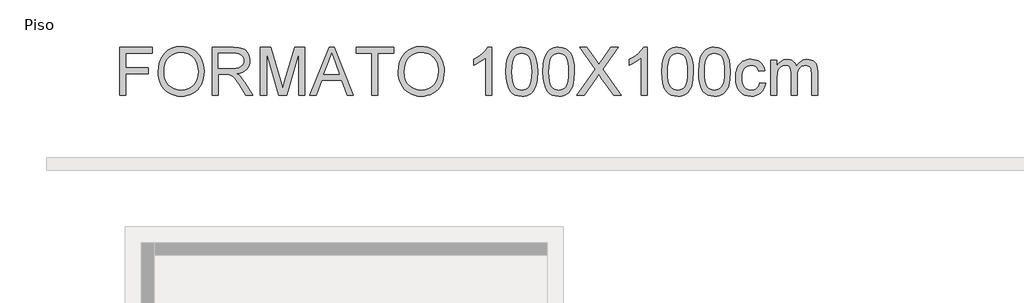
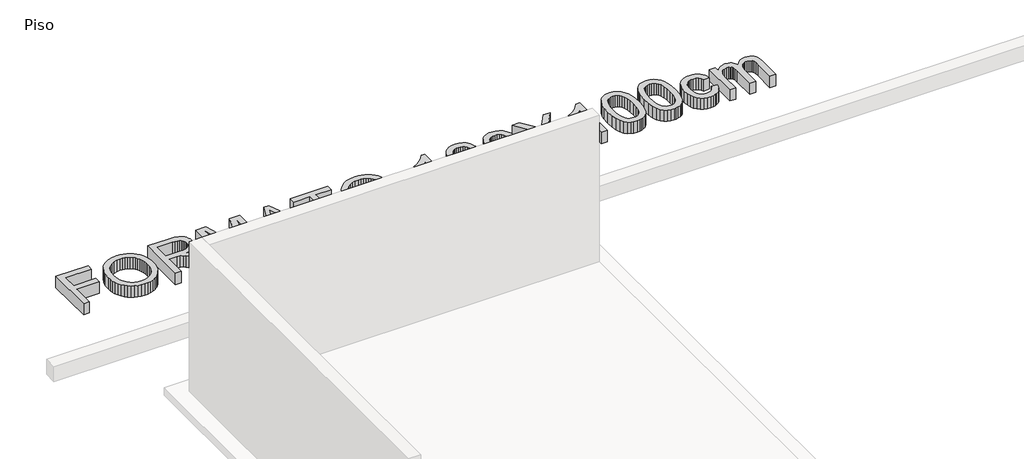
# One storey, part 2 of 2: 1 proxy.
"""IFC4 building model written with IfcOpenShell, lengths in millimetres."""

from ifc_helpers import new_model, si_unit, origin, origin_with_axes, place, context, project, spatial, polyline, outline, extrude, element, save

model = new_model("IFC4")

# Units and contexts
model_context = context("Model", 3, world=origin())
ifc_project = project(units=[si_unit("LENGTHUNIT", "METRE", prefix="MILLI")], contexts=[model_context])

# Site, building, storey
site = spatial("IfcSite", under=ifc_project)
building = spatial("IfcBuilding", under=site)
storey = spatial("IfcBuildingStorey", under=building, Name="Piso", Elevation=0.0)

# Proxy
placement = place(None, origin())
element("IfcBuildingElementProxy", 1, Name="600mm Arial", ObjectType="600mm Arial", at=placement, inside=storey, context=model_context, shape_type="SweptSolid", body=[
    extrude(outline(polyline([(92602.0859381, 2702.6380465), (92602.0859381, 3305.3759074), (93007.0504384, 3305.3759074), (93007.0504384, 3230.0336748), (92677.4281707, 3230.0336748), (92677.4281707, 3051.0958724), (92959.961543, 3051.0958724), (92959.961543, 2975.7536397), (92677.4281707, 2975.7536397), (92677.4281707, 2702.6380465), (92602.0859381, 2702.6380465)])), origin_with_axes(), (0.0, 0.0, 1.0), 150.0),
    extrude(outline(polyline([(93082.392671, 2996.0607259), (93087.4142602, 3066.7584483), (93102.4790279, 3129.3443727), (93127.5869741, 3183.8184992), (93143.9071391, 3208.0136381), (93162.7380987, 3230.1808276), (93205.8262774, 3267.1989534), (93254.7453857, 3293.6404718), (93309.4954237, 3309.5053828), (93370.0763912, 3314.7936865), (93410.6261841, 3312.310483), (93449.134232, 3304.8608726), (93485.6005348, 3292.4448553), (93520.0250925, 3275.062431), (93551.4422148, 3253.2378317), (93578.8862117, 3227.495289), (93602.357083, 3197.8348032), (93621.8548287, 3164.2563741), (93637.1771138, 3127.5233569), (93648.1216032, 3088.3991067), (93654.6882968, 3046.8836235), (93656.8771947, 3002.9769074), (93654.5733337, 2958.4907771), (93647.6617507, 2916.4142739), (93636.1424457, 2876.7473978), (93620.0154187, 2839.4901487), (93599.6623474, 2805.6266111), (93575.4649091, 2776.1408692), (93547.423104, 2751.032923), (93515.5369321, 2730.3027726), (93481.0617906, 2714.0791766), (93445.2530769, 2702.4908937), (93408.110791, 2695.537924), (93369.6349328, 2693.2202674), (93328.3769671, 2695.7816458), (93289.3630815, 2703.465781), (93252.5932761, 2716.272673), (93218.0675508, 2734.2023217), (93186.6872166, 2756.56035), (93159.3535844, 2782.6523805), (93136.0666541, 2812.4784132), (93116.8264257, 2846.0384482), (93101.761658, 2881.9851177), (93091.0011097, 2918.9710538), (93084.5447807, 2956.9962565), (93082.392671, 2996.0607259)]), holes=[polyline([(93157.7349036, 2995.3249619), (93161.5010955, 2945.375784), (93172.7996713, 2901.0368065), (93191.6306309, 2862.3080295), (93217.9939744, 2829.1894529), (93250.0410947, 2802.665161), (93285.9233848, 2783.7192383), (93325.6408447, 2772.3516846), (93369.1934744, 2768.5625001), (93413.4910652, 2772.3884728), (93453.6775746, 2783.8663911), (93489.7530028, 2802.9962548), (93521.7173496, 2829.7780641), (93547.8875551, 2863.5956165), (93566.5805589, 2903.8327097), (93577.7963613, 2950.4893437), (93581.5349621, 3003.5655186), (93579.9346754, 3038.0452586), (93575.1338153, 3070.2625243), (93567.1323819, 3100.2173158), (93555.9303752, 3127.9096329), (93541.6519553, 3152.9761924), (93524.4212823, 3175.0537106), (93504.2383563, 3194.1421877), (93481.1031774, 3210.2416235), (93455.7331153, 3223.0209243), (93428.84554, 3232.1489963), (93400.4404514, 3237.6258395), (93370.5178496, 3239.4514539), (93328.4781346, 3235.9335823), (93289.4734461, 3225.3799676), (93253.503784, 3207.7906097), (93220.5691484, 3183.1655086), (93193.0791663, 3150.318245), (93173.4434648, 3108.0623993), (93161.6620439, 3056.3979716), (93157.7349036, 2995.3249619)])]), origin_with_axes(), (0.0, 0.0, 1.0), 150.0),
    extrude(outline(polyline([(93760.4727645, 2702.6380465), (93760.4727645, 3305.3759074), (94020.1974531, 3305.3759074), (94090.0030617, 3301.3108114), (94140.7891711, 3289.1155232), (94160.3880844, 3279.4218327), (94177.9084644, 3266.6011451), (94193.3503112, 3250.6534606), (94206.7136247, 3231.5787792), (94217.4971656, 3210.4025718), (94225.1996949, 3188.1503097), (94229.8212125, 3164.8219926), (94231.3617183, 3140.4176208), (94228.809537, 3109.4603509), (94221.152993, 3081.0414668), (94208.3920863, 3055.1609684), (94190.5268169, 3031.8188558), (94167.3272585, 3011.76009), (94138.563485, 2995.7296321), (94104.2354964, 2983.727482), (94064.3432925, 2975.7536397), (94089.1753272, 2959.5300438), (94107.1647568, 2943.527177), (94138.0300562, 2906.9229184), (94168.233168, 2865.9776524), (94268.738529, 2702.6380465), (94181.1826142, 2702.6380465), (94102.7501728, 2827.5707721), (94046.0963456, 2910.2706446), (94025.0351013, 2934.3853094), (94006.2915137, 2949.3397125), (93970.4598074, 2963.6871103), (93926.7554263, 2966.3358607), (93835.8149971, 2966.3358607), (93835.8149971, 2702.6380465), (93760.4727645, 2702.6380465)]), holes=[polyline([(93835.8149971, 3041.6780933), (94004.4521037, 3041.6780933), (94052.8837684, 3044.3452377), (94090.4629142, 3052.3466711), (94118.7530396, 3066.2158224), (94139.3176431, 3086.4861203), (94151.8440251, 3111.0054553), (94156.0194857, 3137.6217176), (94154.0283244, 3156.8895371), (94148.0548405, 3174.3731289), (94138.099034, 3190.0724931), (94124.1609049, 3203.9876296), (94105.9185565, 3215.3827744), (94083.050092, 3223.5221635), (94055.5555114, 3228.405797), (94023.4348147, 3230.0336748), (93835.8149971, 3230.0336748), (93835.8149971, 3041.6780933)])]), origin_with_axes(), (0.0, 0.0, 1.0), 150.0),
    extrude(outline(polyline([(94363.2106254, 2702.6380465), (94363.2106254, 3305.3759074), (94492.8522405, 3305.3759074), (94616.1662853, 2880.5457794), (94641.0351082, 2791.8126422), (94667.9640702, 2887.9034193), (94789.2179758, 3305.3759074), (94918.8595909, 3305.3759074), (94918.8595909, 2702.6380465), (94843.5173583, 2702.6380465), (94843.5173583, 3230.0336748), (94692.0971291, 2702.6380465), (94589.9730872, 2702.6380465), (94438.552858, 3230.0336748), (94438.552858, 2702.6380465), (94363.2106254, 2702.6380465)])), origin_with_axes(), (0.0, 0.0, 1.0), 150.0),
    extrude(outline(polyline([(94980.5166133, 2702.6380465), (95221.1114382, 3305.3759074), (95285.2700581, 3305.3759074), (95525.864883, 2702.6380465), (95446.2552192, 2702.6380465), (95377.2405569, 2890.9936281), (95128.9937866, 2890.9936281), (95060.1262771, 2702.6380465), (94980.5166133, 2702.6380465)]), holes=[polyline([(95156.6585126, 2966.3358607), (95349.7229837, 2966.3358607), (95295.4236012, 3114.5187283), (95253.1907481, 3230.0336748), (95215.6667846, 3127.4681746), (95156.6585126, 2966.3358607)])]), origin_with_axes(), (0.0, 0.0, 1.0), 150.0),
    extrude(outline(polyline([(95757.0419287, 2702.6380465), (95757.0419287, 3230.0336748), (95559.2685681, 3230.0336748), (95559.2685681, 3305.3759074), (96030.1575219, 3305.3759074), (96030.1575219, 3230.0336748), (95832.3841613, 3230.0336748), (95832.3841613, 2702.6380465), (95757.0419287, 2702.6380465)])), origin_with_axes(), (0.0, 0.0, 1.0), 150.0),
    extrude(outline(polyline([(96086.6641964, 2996.0607259), (96091.6857856, 3066.7584483), (96106.7505533, 3129.3443727), (96131.8584995, 3183.8184992), (96148.1786645, 3208.0136381), (96167.0096242, 3230.1808276), (96210.0978028, 3267.1989534), (96259.0169111, 3293.6404718), (96313.7669491, 3309.5053828), (96374.3479166, 3314.7936865), (96414.8977096, 3312.310483), (96453.4057574, 3304.8608726), (96489.8720602, 3292.4448553), (96524.2966179, 3275.062431), (96555.7137403, 3253.2378317), (96583.1577371, 3227.495289), (96606.6286084, 3197.8348032), (96626.1263541, 3164.2563741), (96641.4486392, 3127.5233569), (96652.3931286, 3088.3991067), (96658.9598222, 3046.8836235), (96661.1487201, 3002.9769074), (96658.8448591, 2958.4907771), (96651.9332761, 2916.4142739), (96640.4139711, 2876.7473978), (96624.2869442, 2839.4901487), (96603.9338728, 2805.6266111), (96579.7364345, 2776.1408692), (96551.6946295, 2751.032923), (96519.8084575, 2730.3027726), (96485.3333161, 2714.0791766), (96449.5246024, 2702.4908937), (96412.3823164, 2695.537924), (96373.9064582, 2693.2202674), (96332.6484925, 2695.7816458), (96293.6346069, 2703.465781), (96256.8648015, 2716.272673), (96222.3390762, 2734.2023217), (96190.958742, 2756.56035), (96163.6251098, 2782.6523805), (96140.3381795, 2812.4784132), (96121.0979512, 2846.0384482), (96106.0331835, 2881.9851177), (96095.2726351, 2918.9710538), (96088.8163061, 2956.9962565), (96086.6641964, 2996.0607259)]), holes=[polyline([(96162.006429, 2995.3249619), (96165.7726209, 2945.375784), (96177.0711967, 2901.0368065), (96195.9021564, 2862.3080295), (96222.2654998, 2829.1894529), (96254.3126201, 2802.665161), (96290.1949102, 2783.7192383), (96329.9123701, 2772.3516846), (96373.4649998, 2768.5625001), (96417.7625906, 2772.3884728), (96457.9491, 2783.8663911), (96494.0245282, 2802.9962548), (96525.988875, 2829.7780641), (96552.1590805, 2863.5956165), (96570.8520844, 2903.8327097), (96582.0678867, 2950.4893437), (96585.8064875, 3003.5655186), (96584.2062008, 3038.0452586), (96579.4053407, 3070.2625243), (96571.4039074, 3100.2173158), (96560.2019006, 3127.9096329), (96545.9234807, 3152.9761924), (96528.6928077, 3175.0537106), (96508.5098818, 3194.1421877), (96485.3747028, 3210.2416235), (96460.0046407, 3223.0209243), (96433.1170654, 3232.1489963), (96404.7119768, 3237.6258395), (96374.789375, 3239.4514539), (96332.74966, 3235.9335823), (96293.7449715, 3225.3799676), (96257.7753094, 3207.7906097), (96224.8406738, 3183.1655086), (96197.3506917, 3150.318245), (96177.7149902, 3108.0623993), (96165.9335693, 3056.3979716), (96162.006429, 2995.3249619)])]), origin_with_axes(), (0.0, 0.0, 1.0), 150.0),
    extrude(outline(polyline([(97254.4688019, 2702.6380465), (97179.1265693, 2702.6380465), (97179.1265693, 3172.349778), (97147.6726587, 3146.910738), (97107.7574622, 3121.5084862), (97065.855703, 3099.3068078), (97028.4421041, 3083.4694879), (97028.4421041, 3154.6914422), (97087.615923, 3186.8811168), (97138.880279, 3225.1776325), (97179.2921162, 3265.9021693), (97205.9083785, 3305.3759074), (97254.4688019, 3305.3759074), (97254.4688019, 2702.6380465)])), origin_with_axes(), (0.0, 0.0, 1.0), 150.0),
    extrude(outline(polyline([(97433.4066044, 2999.1509346), (97438.9432284, 3095.6279879), (97445.8640084, 3136.5410643), (97455.5531005, 3172.5705072), (97467.9691178, 3204.0106222), (97483.0706737, 3231.1557149), (97500.8577682, 3254.0057853), (97521.3304012, 3272.5608335), (97544.5575507, 3286.9174283), (97570.6081945, 3297.1721389), (97599.4823325, 3303.3249653), (97631.179965, 3305.3759074), (97677.6066727, 3300.5198651), (97719.1773382, 3285.9517381), (97753.9421867, 3262.2417435), (97779.9514438, 3229.9600984), (97799.5963424, 3189.3827143), (97815.2681153, 3140.7855028), (97825.532023, 3079.0732981), (97828.9533256, 2999.1509346), (97823.4718838, 2903.2257044), (97816.6200817, 2862.4505838), (97807.0275587, 2826.4671261), (97794.7081103, 2795.0132155), (97779.6755323, 2767.8267361), (97761.9298246, 2744.9076878), (97741.4709871, 2726.2560706), (97718.2162465, 2711.8029067), (97692.0828293, 2701.4792182), (97663.0707354, 2695.2850051), (97631.179965, 2693.2202674), (97589.6828759, 2696.8071169), (97552.8946764, 2707.5676653), (97520.8153664, 2725.5019125), (97493.444946, 2750.6098587), (97467.1781715, 2795.9972999), (97448.4161898, 2852.5499596), (97437.1590007, 2920.2678378), (97433.4066044, 2999.1509346)]), holes=[polyline([(97508.748837, 2999.2980874), (97510.9561289, 2933.8012967), (97517.5780048, 2880.7849027), (97528.6144647, 2840.2489053), (97544.0655085, 2812.1933047), (97562.7539139, 2793.1048277), (97583.5024584, 2779.4702012), (97606.3111421, 2771.2894254), (97631.179965, 2768.5625001), (97656.0487878, 2771.2986224), (97678.8574715, 2779.5069894), (97699.6060161, 2793.1876011), (97718.2944214, 2812.3404575), (97733.7454652, 2840.4420434), (97744.7819251, 2880.9688437), (97751.403801, 2933.9208584), (97753.611093, 2999.2980874), (97751.4773774, 3063.0612342), (97745.0762307, 3115.1441277), (97734.4076528, 3155.5467678), (97719.4716438, 3184.2691546), (97701.0959381, 3204.2911322), (97680.1082703, 3218.5925448), (97656.5086403, 3227.1733923), (97630.2970482, 3230.0336748), (97605.556984, 3227.5136831), (97583.1345764, 3219.9537081), (97563.0298254, 3207.3537498), (97545.2427309, 3189.7138081), (97529.2766523, 3158.4438385), (97517.8723104, 3116.2845619), (97511.0297053, 3063.2359782), (97508.748837, 2999.2980874)])]), origin_with_axes(), (0.0, 0.0, 1.0), 150.0),
    extrude(outline(polyline([(97894.8777791, 2999.1509346), (97900.4144031, 3095.6279879), (97907.3351832, 3136.5410643), (97917.0242752, 3172.5705072), (97929.4402925, 3204.0106222), (97944.5418484, 3231.1557149), (97962.3289429, 3254.0057853), (97982.8015759, 3272.5608335), (98006.0287254, 3286.9174283), (98032.0793692, 3297.1721389), (98060.9535073, 3303.3249653), (98092.6511397, 3305.3759074), (98139.0778475, 3300.5198651), (98180.648513, 3285.9517381), (98215.4133615, 3262.2417435), (98241.4226186, 3229.9600984), (98261.0675171, 3189.3827143), (98276.7392901, 3140.7855028), (98287.0031978, 3079.0732981), (98290.4245003, 2999.1509346), (98284.9430586, 2903.2257044), (98278.0912564, 2862.4505838), (98268.4987334, 2826.4671261), (98256.1792851, 2795.0132155), (98241.1467071, 2767.8267361), (98223.4009993, 2744.9076878), (98202.9421619, 2726.2560706), (98179.6874212, 2711.8029067), (98153.554004, 2701.4792182), (98124.5419102, 2695.2850051), (98092.6511397, 2693.2202674), (98051.1540507, 2696.8071169), (98014.3658511, 2707.5676653), (97982.2865412, 2725.5019125), (97954.9161207, 2750.6098587), (97928.6493463, 2795.9972999), (97909.8873645, 2852.5499596), (97898.6301755, 2920.2678378), (97894.8777791, 2999.1509346)]), holes=[polyline([(97970.2200117, 2999.2980874), (97972.4273037, 2933.8012967), (97979.0491796, 2880.7849027), (97990.0856395, 2840.2489053), (98005.5366833, 2812.1933047), (98024.2250886, 2793.1048277), (98044.9736331, 2779.4702012), (98067.7823168, 2771.2894254), (98092.6511397, 2768.5625001), (98117.5199626, 2771.2986224), (98140.3286463, 2779.5069894), (98161.0771908, 2793.1876011), (98179.7655962, 2812.3404575), (98195.21664, 2840.4420434), (98206.2530998, 2880.9688437), (98212.8749757, 2933.9208584), (98215.0822677, 2999.2980874), (98212.9485521, 3063.0612342), (98206.5474054, 3115.1441277), (98195.8788276, 3155.5467678), (98180.9428186, 3184.2691546), (98162.5671129, 3204.2911322), (98141.5794451, 3218.5925448), (98117.9798151, 3227.1733923), (98091.7682229, 3230.0336748), (98067.0281587, 3227.5136831), (98044.6057511, 3219.9537081), (98024.5010001, 3207.3537498), (98006.7139056, 3189.7138081), (97990.747827, 3158.4438385), (97979.3434852, 3116.2845619), (97972.5008801, 3063.2359782), (97970.2200117, 2999.2980874)])]), origin_with_axes(), (0.0, 0.0, 1.0), 150.0),
    extrude(outline(polyline([(98318.6778375, 2702.6380465), (98551.0321057, 3031.0830918), (98356.3489539, 3305.3759074), (98446.7007719, 3305.3759074), (98556.3296064, 3151.0126222), (98582.4860163, 3111.9067662), (98593.2649587, 3090.8271278), (98636.5278814, 3152.0426918), (98744.9794936, 3305.3759074), (98836.6556868, 3305.3759074), (98641.9725349, 3030.200175), (98874.3268031, 2702.6380465), (98783.974985, 2702.6380465), (98629.1702415, 2921.0127989), (98596.9437787, 2966.3358607), (98561.4799544, 2916.5982149), (98410.3540307, 2702.6380465), (98318.6778375, 2702.6380465)])), origin_with_axes(), (0.0, 0.0, 1.0), 150.0),
    extrude(outline(polyline([(99203.9490707, 2702.6380465), (99128.6068381, 2702.6380465), (99128.6068381, 3172.349778), (99097.1529275, 3146.910738), (99057.2377311, 3121.5084862), (99015.3359718, 3099.3068078), (98977.9223729, 3083.4694879), (98977.9223729, 3154.6914422), (99037.0961918, 3186.8811168), (99088.3605479, 3225.1776325), (99128.772385, 3265.9021693), (99155.3886474, 3305.3759074), (99203.9490707, 3305.3759074), (99203.9490707, 2702.6380465)])), origin_with_axes(), (0.0, 0.0, 1.0), 150.0),
    extrude(outline(polyline([(99382.8868732, 2999.1509346), (99388.4234972, 3095.6279879), (99395.3442773, 3136.5410643), (99405.0333693, 3172.5705072), (99417.4493866, 3204.0106222), (99432.5509425, 3231.1557149), (99450.338037, 3254.0057853), (99470.81067, 3272.5608335), (99494.0378195, 3286.9174283), (99520.0884633, 3297.1721389), (99548.9626014, 3303.3249653), (99580.6602338, 3305.3759074), (99627.0869416, 3300.5198651), (99668.657607, 3285.9517381), (99703.4224556, 3262.2417435), (99729.4317126, 3229.9600984), (99749.0766112, 3189.3827143), (99764.7483842, 3140.7855028), (99775.0122919, 3079.0732981), (99778.4335944, 2999.1509346), (99772.9521527, 2903.2257044), (99766.1003505, 2862.4505838), (99756.5078275, 2826.4671261), (99744.1883792, 2795.0132155), (99729.1558012, 2767.8267361), (99711.4100934, 2744.9076878), (99690.951256, 2726.2560706), (99667.6965153, 2711.8029067), (99641.5630981, 2701.4792182), (99612.5510043, 2695.2850051), (99580.6602338, 2693.2202674), (99539.1631447, 2696.8071169), (99502.3749452, 2707.5676653), (99470.2956352, 2725.5019125), (99442.9252148, 2750.6098587), (99416.6584403, 2795.9972999), (99397.8964586, 2852.5499596), (99386.6392695, 2920.2678378), (99382.8868732, 2999.1509346)]), holes=[polyline([(99458.2291058, 2999.2980874), (99460.4363978, 2933.8012967), (99467.0582737, 2880.7849027), (99478.0947335, 2840.2489053), (99493.5457773, 2812.1933047), (99512.2341827, 2793.1048277), (99532.9827272, 2779.4702012), (99555.7914109, 2771.2894254), (99580.6602338, 2768.5625001), (99605.5290567, 2771.2986224), (99628.3377404, 2779.5069894), (99649.0862849, 2793.1876011), (99667.7746903, 2812.3404575), (99683.2257341, 2840.4420434), (99694.2621939, 2880.9688437), (99700.8840698, 2933.9208584), (99703.0913618, 2999.2980874), (99700.9576462, 3063.0612342), (99694.5564995, 3115.1441277), (99683.8879216, 3155.5467678), (99668.9519126, 3184.2691546), (99650.576207, 3204.2911322), (99629.5885392, 3218.5925448), (99605.9889092, 3227.1733923), (99579.777317, 3230.0336748), (99555.0372528, 3227.5136831), (99532.6148452, 3219.9537081), (99512.5100942, 3207.3537498), (99494.7229997, 3189.7138081), (99478.7569211, 3158.4438385), (99467.3525793, 3116.2845619), (99460.5099742, 3063.2359782), (99458.2291058, 2999.2980874)])]), origin_with_axes(), (0.0, 0.0, 1.0), 150.0),
    extrude(outline(polyline([(99844.3580479, 2999.1509346), (99849.894672, 3095.6279879), (99856.815452, 3136.5410643), (99866.5045441, 3172.5705072), (99878.9205614, 3204.0106222), (99894.0221173, 3231.1557149), (99911.8092118, 3254.0057853), (99932.2818448, 3272.5608335), (99955.5089943, 3286.9174283), (99981.559638, 3297.1721389), (100010.4337761, 3303.3249653), (100042.1314085, 3305.3759074), (100088.5581163, 3300.5198651), (100130.1287818, 3285.9517381), (100164.8936303, 3262.2417435), (100190.9028874, 3229.9600984), (100210.5477859, 3189.3827143), (100226.2195589, 3140.7855028), (100236.4834666, 3079.0732981), (100239.9047692, 2999.1509346), (100234.4233274, 2903.2257044), (100227.5715253, 2862.4505838), (100217.9790022, 2826.4671261), (100205.6595539, 2795.0132155), (100190.6269759, 2767.8267361), (100172.8812682, 2744.9076878), (100152.4224307, 2726.2560706), (100129.1676901, 2711.8029067), (100103.0342729, 2701.4792182), (100074.022179, 2695.2850051), (100042.1314085, 2693.2202674), (100000.6343195, 2696.8071169), (99963.84612, 2707.5676653), (99931.76681, 2725.5019125), (99904.3963896, 2750.6098587), (99878.1296151, 2795.9972999), (99859.3676333, 2852.5499596), (99848.1104443, 2920.2678378), (99844.3580479, 2999.1509346)]), holes=[polyline([(99919.7002806, 2999.2980874), (99921.9075725, 2933.8012967), (99928.5294484, 2880.7849027), (99939.5659083, 2840.2489053), (99955.0169521, 2812.1933047), (99973.7053574, 2793.1048277), (99994.453902, 2779.4702012), (100017.2625857, 2771.2894254), (100042.1314085, 2768.5625001), (100067.0002314, 2771.2986224), (100089.8089151, 2779.5069894), (100110.5574597, 2793.1876011), (100129.245865, 2812.3404575), (100144.6969088, 2840.4420434), (100155.7333687, 2880.9688437), (100162.3552446, 2933.9208584), (100164.5625365, 2999.2980874), (100162.428821, 3063.0612342), (100156.0276743, 3115.1441277), (100145.3590964, 3155.5467678), (100130.4230874, 3184.2691546), (100112.0473817, 3204.2911322), (100091.0597139, 3218.5925448), (100067.4600839, 3227.1733923), (100041.2484918, 3230.0336748), (100016.5084276, 3227.5136831), (99994.08602, 3219.9537081), (99973.9812689, 3207.3537498), (99956.1941745, 3189.7138081), (99940.2280959, 3158.4438385), (99928.823754, 3116.2845619), (99921.9811489, 3063.2359782), (99919.7002806, 2999.2980874)])]), origin_with_axes(), (0.0, 0.0, 1.0), 150.0),
    extrude(outline(polyline([(100607.1981531, 2862.7402908), (100682.5403858, 2853.3225117), (100674.3458143, 2817.7713154), (100661.5343238, 2786.3128063), (100644.1059143, 2758.9469844), (100622.0605857, 2735.6738497), (100596.3272402, 2717.1004075), (100567.8347797, 2703.833663), (100536.5832042, 2695.8736163), (100502.5725137, 2693.2202674), (100460.316668, 2696.92208), (100422.4294211, 2708.0275178), (100388.9107728, 2726.5365806), (100359.7607232, 2752.4492687), (100336.1656917, 2785.2781382), (100319.3120978, 2824.5357456), (100309.1999415, 2870.2220909), (100305.8292227, 2922.337174), (100311.5865759, 2989.3836677), (100318.7832674, 3019.5545898), (100328.8586356, 3047.4906288), (100341.8816582, 3072.6307646), (100357.9213132, 3094.4139773), (100376.9776006, 3112.8402667), (100399.0505203, 3127.9096329), (100423.1421924, 3139.6266745), (100448.2547371, 3147.9959899), (100474.3881544, 3153.0175791), (100501.5424441, 3154.6914422), (100534.9691219, 3152.3921797), (100565.2044234, 3145.4943923), (100592.2483486, 3133.99808), (100616.1008974, 3117.9032427), (100636.3573998, 3097.5777624), (100652.6131854, 3073.3895213), (100664.8682544, 3045.3385191), (100673.1226067, 3013.4247561), (100597.7803741, 3004.006977), (100584.1135579, 3036.8772332), (100562.8315845, 3060.440075), (100535.1116762, 3074.6219259), (100502.1310553, 3079.3492096), (100476.531067, 3077.022356), (100453.4418733, 3070.0417951), (100432.8634742, 3058.407527), (100414.7958697, 3042.1195517), (100400.0851884, 3020.8007901), (100389.5775589, 2994.0741631), (100383.2729812, 2961.9396708), (100381.1714553, 2924.3973132), (100383.226996, 2886.289337), (100389.3936179, 2853.7823642), (100399.6713211, 2826.8763948), (100414.0601057, 2805.5714288), (100431.7690252, 2789.3800225), (100452.0071335, 2777.8147322), (100474.7744305, 2770.8755581), (100500.0709161, 2768.5625001), (100539.0848017, 2774.3382474), (100555.9567897, 2781.5579315), (100571.0721412, 2791.6654894), (100584.0077919, 2804.7712854), (100594.3406774, 2820.9856844), (100602.0707978, 2840.3086862), (100607.1981531, 2862.7402908)])), origin_with_axes(), (0.0, 0.0, 1.0), 150.0),
    extrude(outline(polyline([(100748.4648393, 2702.6380465), (100748.4648393, 3145.2736631), (100823.8070719, 3145.2736631), (100823.8070719, 3072.4330281), (100846.4686028, 3105.8918955), (100875.6048568, 3132.1034877), (100910.2225526, 3149.0444536), (100949.3284087, 3154.6914422), (100991.2301679, 3148.934089), (101009.0632476, 3141.7373974), (101024.8177941, 3131.6620293), (101049.9073461, 3104.0156974), (101066.3148831, 3067.1355273), (101093.7772741, 3105.4412401), (101125.102426, 3132.8024635), (101160.2903388, 3149.2191975), (101199.3410126, 3154.6914422), (101229.5027377, 3152.4151724), (101255.9764457, 3145.5863628), (101278.7621368, 3134.2050136), (101297.8598109, 3118.2711247), (101312.9567683, 3097.6007551), (101323.7403092, 3072.0099638), (101330.2104338, 3041.4987508), (101332.367142, 3006.0671161), (101332.367142, 2702.6380465), (101257.0249094, 2702.6380465), (101257.0249094, 2973.6935006), (101255.2774699, 3011.2726464), (101250.0351515, 3036.6013217), (101240.2127022, 3053.9469578), (101224.7248702, 3067.5769857), (101204.8040602, 3076.4061536), (101181.6826768, 3079.3492096), (101160.3317255, 3077.4638144), (101140.8661694, 3071.8076287), (101123.2860086, 3062.3806526), (101107.591243, 3049.182886), (101094.6831835, 3031.8280529), (101085.463141, 3009.9298771), (101079.9311155, 2983.4883587), (101078.087107, 2952.5034976), (101078.087107, 2702.6380465), (101002.7448744, 2702.6380465), (101002.7448744, 2982.0812101), (100998.3854727, 3024.6819451), (100992.9362207, 3041.4021818), (100985.3072678, 3055.0689979), (100975.1951114, 3065.6915905), (100962.296249, 3073.2791567), (100946.6106804, 3077.8316964), (100928.1384057, 3079.3492096), (100899.1125163, 3075.3025076), (100872.3674953, 3063.1624018), (100850.2945756, 3043.2231977), (100835.2849902, 3015.7792008), (100826.6765515, 2977.7034143), (100823.8070719, 2925.8688412), (100823.8070719, 2702.6380465), (100748.4648393, 2702.6380465)])), origin_with_axes(), (0.0, 0.0, 1.0), 150.0),
])

save(model, "model.ifc")
